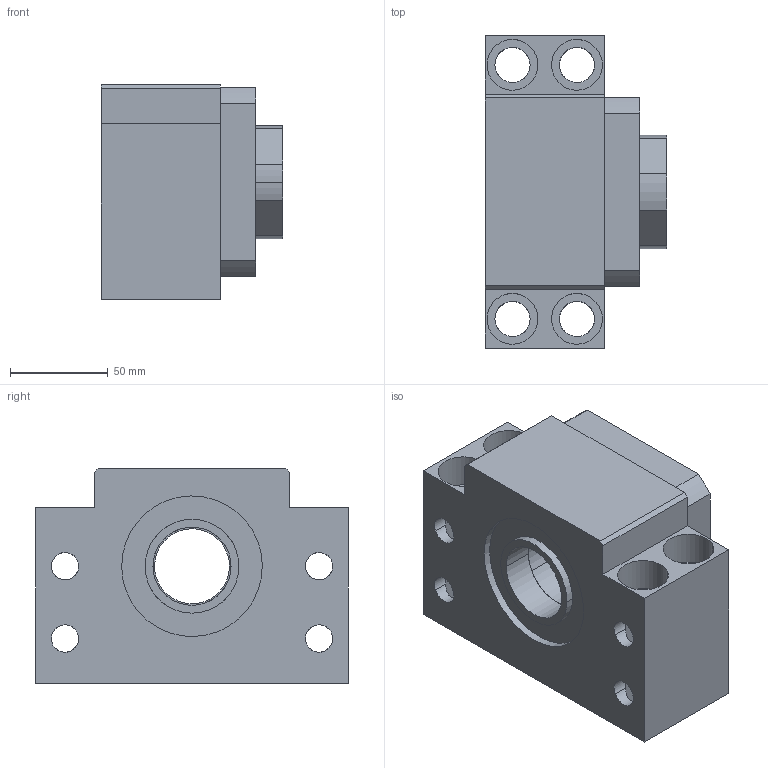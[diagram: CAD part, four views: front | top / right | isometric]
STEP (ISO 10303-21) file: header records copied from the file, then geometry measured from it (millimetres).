
FILE_DESCRIPTION(('CATIA V5 STEP Exchange'),'2;1');
FILE_NAME('D:\서포트 완성도면\BK\BK40.stp','2014-02-10T10:34:22+00:00',('none'),('none'),'CATIA Version 5 Release 18 GA (IN-10)','CATIA V5 STEP AP203','none');
FILE_SCHEMA(('CONFIG_CONTROL_DESIGN'));
Length unit declared in the file: millimetre
Products named in the file (1): BK40
Assembly tree (4 placements, depth 2):
  BK40
    #56
    #3439  x2
    #3626
Bounding box: 93 x 160 x 110 mm (x, y, z)
Volume: 922614 mm3; surface area: 124886 mm2
Topology: 4 solids, 4 shells, 105 faces, 314 edges, 210 vertices
Faces by surface type: cylinder 70, plane 35
Entity records: 4023 total; most frequent: CARTESIAN_POINT 1444, ORIENTED_EDGE 604, DIRECTION 358, EDGE_CURVE 302, VERTEX_POINT 202, AXIS2_PLACEMENT_3D 160, VECTOR 138, LINE 138
